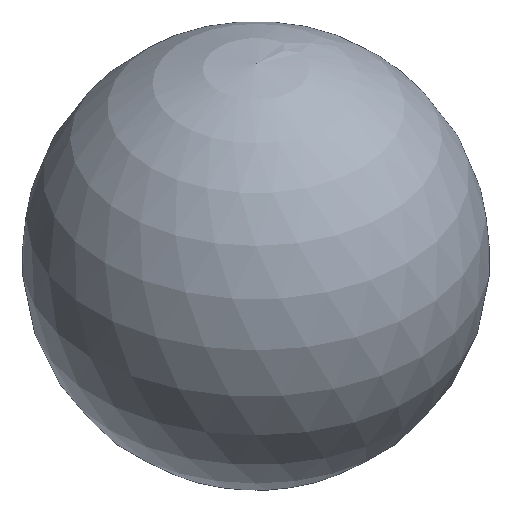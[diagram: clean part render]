
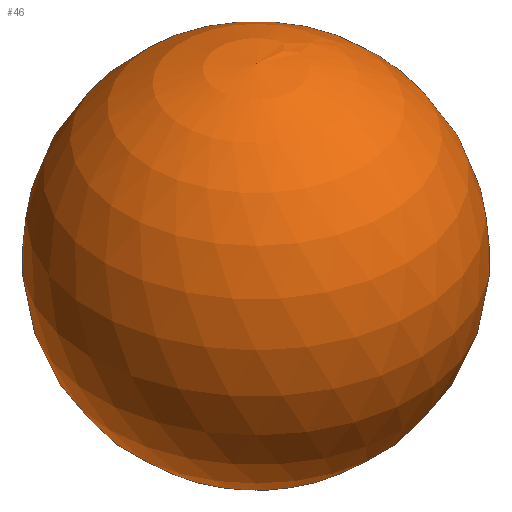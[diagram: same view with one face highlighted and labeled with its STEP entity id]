
A CAD part, isometric view. The second image highlights one B-rep face of the part: STEP entity #46.
In plain terms, the highlighted spherical face has radius 8.4 mm.
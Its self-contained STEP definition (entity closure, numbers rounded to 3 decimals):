
#20=CARTESIAN_POINT('',(0.,0.,6.8));
#21=DIRECTION('',(1.,0.,0.));
#22=DIRECTION('',(0.,0.,1.));
#23=AXIS2_PLACEMENT_3D('',#20,#22,#21);
#24=SPHERICAL_SURFACE('',#23,8.4);
#25=CARTESIAN_POINT('',(4.932,0.,0.));
#26=VERTEX_POINT('',#25);
#27=CARTESIAN_POINT('',(0.,0.,15.2));
#28=VERTEX_POINT('',#27);
#29=CARTESIAN_POINT('',(0.,0.,6.8));
#30=DIRECTION('',(0.587,0.,-0.81));
#31=DIRECTION('',(0.,-1.,0.));
#32=AXIS2_PLACEMENT_3D('',#29,#31,#30);
#33=CIRCLE('',#32,8.4);
#34=EDGE_CURVE('',#26,#28,#33,.T.);
#35=ORIENTED_EDGE('E1',*,*,#34,.T.);
#36=ORIENTED_EDGE('E2',*,*,#34,.F.);
#37=CARTESIAN_POINT('',(0.,0.,0.));
#38=DIRECTION('',(1.,-0.,-0.));
#39=DIRECTION('',(0.,-0.,1.));
#40=AXIS2_PLACEMENT_3D('',#37,#39,#38);
#41=CIRCLE('',#40,4.932);
#42=EDGE_CURVE('',#26,#26,#41,.T.);
#43=ORIENTED_EDGE('E3',*,*,#42,.F.);
#44=EDGE_LOOP('',(#35,#36,#43));
#45=FACE_OUTER_BOUND('',#44,.F.);
#46=ADVANCED_FACE('F1',(#45),#24,.T.);
